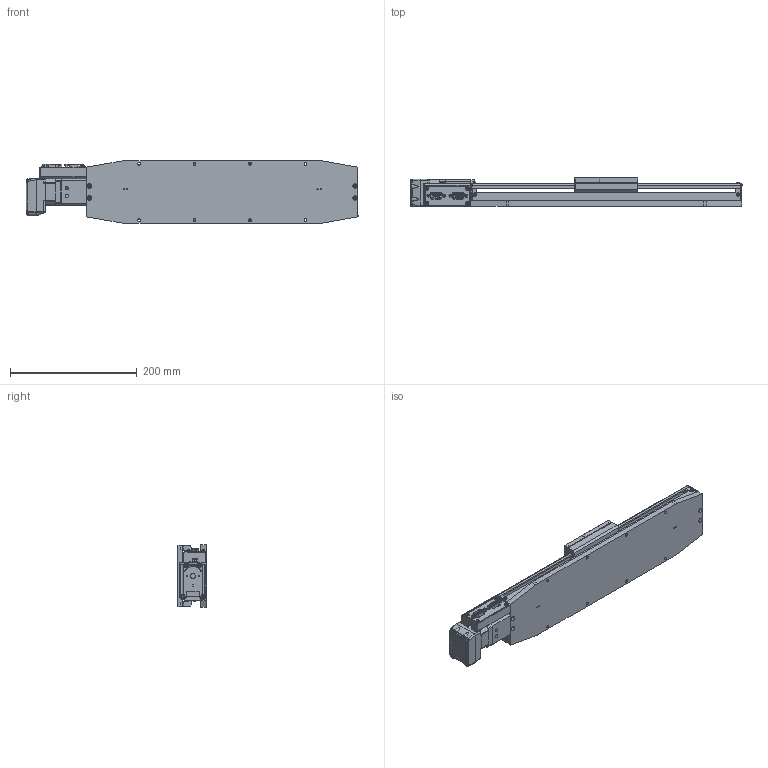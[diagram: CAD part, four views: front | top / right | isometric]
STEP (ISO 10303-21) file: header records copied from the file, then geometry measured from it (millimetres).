
FILE_DESCRIPTION (( 'STEP AP214' ), '1' );
FILE_NAME ('L3500.300-STA_v2_20180822.STEP', '2018-08-22T11:26:44', ( '' ), ( '' ), 'SwSTEP 2.0', 'SolidWorks 2017', '' );
FILE_SCHEMA (( 'AUTOMOTIVE_DESIGN' ));
Length unit declared in the file: millimetre
Products named in the file (1): L3500.300-STA_v2_20180822
Bounding box: 524.33 x 45.42 x 99.06 mm (x, y, z)
Surface area: 365206.9 mm2 (no closed solid volume)
Topology: 0 solids, 37 shells, 3029 faces, 8005 edges, 5163 vertices
Faces by surface type: plane 1334, cylinder 1123, bspline 292, cone 214, torus 66
Entity records: 127499 total; most frequent: CARTESIAN_POINT 54159, ORIENTED_EDGE 15673, DIRECTION 14157, EDGE_CURVE 7848, VERTEX_POINT 5163, AXIS2_PLACEMENT_3D 4946, VECTOR 4265, LINE 4265
